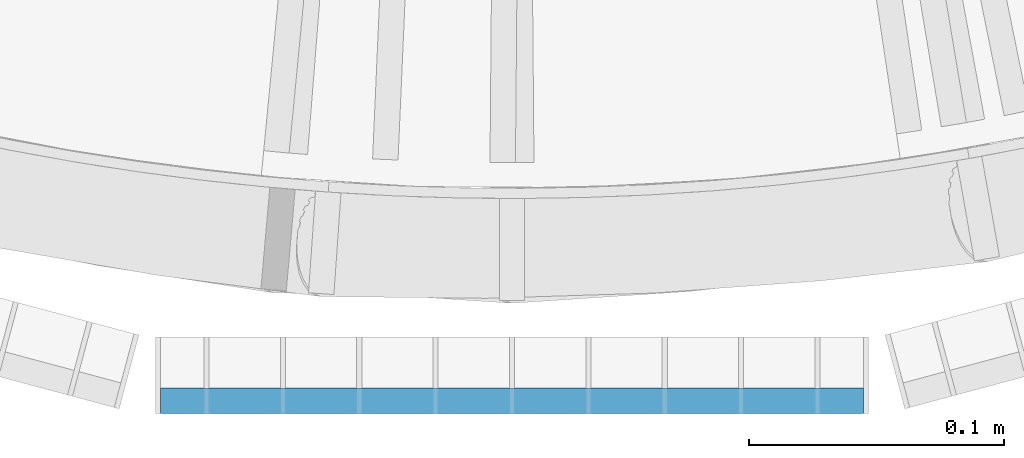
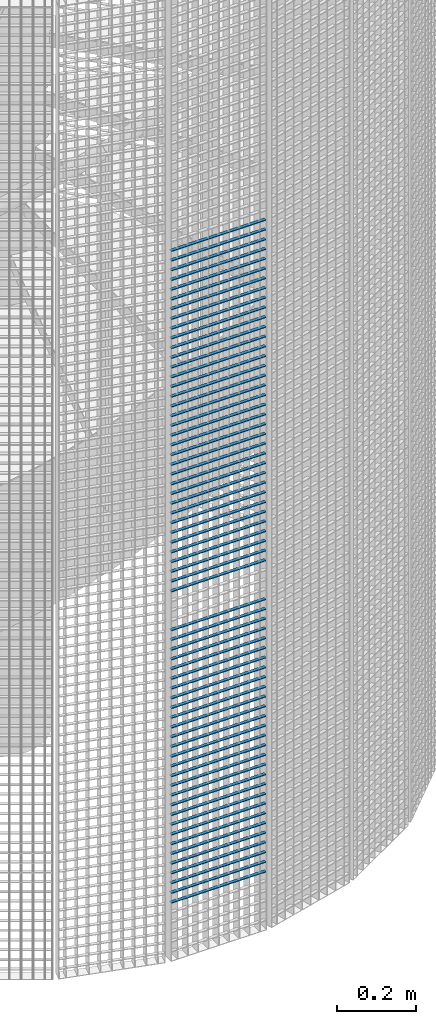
# One storey, part 170 of 1183: 65 beams, 1 element without a shape of its own.
"""IFC2X3 building model written with IfcOpenShell, lengths in millimetres."""

from ifc_helpers import new_model, si_unit, frame, origin_with_axes, origin_2d_with_axis, place, context, subcontext, project, spatial, rectangle, extrude, material, type_object, element, aggregate, save


model = new_model("IFC2X3")

# Units and contexts
model_context = context("Model", 3, precision=1e-05, world=origin_with_axes())
body_context = subcontext(model_context, "Body", "Model", "MODEL_VIEW")
ifc_project = project(units=[si_unit("LENGTHUNIT", "METRE", prefix="MILLI"), si_unit("AREAUNIT", "SQUARE_METRE"), si_unit("VOLUMEUNIT", "CUBIC_METRE"), si_unit("MASSUNIT", "GRAM", prefix="KILO"), si_unit("TIMEUNIT", "SECOND"), si_unit("PLANEANGLEUNIT", "RADIAN"), si_unit("SOLIDANGLEUNIT", "STERADIAN"), si_unit("THERMODYNAMICTEMPERATUREUNIT", "DEGREE_CELSIUS"), si_unit("LUMINOUSINTENSITYUNIT", "LUMEN")], contexts=[model_context])

# Site, building, storey
site_placement = place(None, origin_with_axes())
site = spatial("IfcSite", under=ifc_project, at=site_placement, Name="Undefined", CompositionType="ELEMENT")
building_placement = place(site_placement, origin_with_axes())
building = spatial("IfcBuilding", under=site, at=building_placement, Name="Undefined", CompositionType="ELEMENT")
storey_placement = place(building_placement, origin_with_axes())
storey = spatial("IfcBuildingStorey", under=building, at=storey_placement, Name="Undefined", CompositionType="ELEMENT", Elevation=0.0)

# Assembly, beams
assembly_placement = place(storey_placement, origin_with_axes())
assembly = element("IfcElementAssembly", 1, at=assembly_placement, inside=storey, Name="BORDURE", AssemblyPlace="NOTDEFINED", PredefinedType="NOTDEFINED")
ifc_material = material(Name="STEEL/S235JR")
beam_type = type_object("IfcBeamType", Name="PL2*10", PredefinedType="NOTDEFINED")
beam_1_placement = place(assembly_placement, frame((-137.996003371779, -1113.47999999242, 2190.0), z_axis=(0.0, -1.0, 0.0), x_axis=(1.0, 0.0, 0.0)))
beam_1 = element("IfcBeam", 2, at=beam_1_placement, type_object=beam_type, material=ifc_material, Name="ENTRETOISE", context=body_context, shape_type="SweptSolid", body=[
    extrude(rectangle(XDim=2.0, YDim=10.0, at=origin_2d_with_axis()), frame((275.999999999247, 9.09494701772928e-13, 1.53210777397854e-14), z_axis=(-1.0, 0.0, 0.0), x_axis=(0.0, -1.0, 0.0)), (0.0, 0.0, 1.0), 276.0),
])
beam_2_placement = place(assembly_placement, frame((-137.996003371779, -1113.47999999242, 2160.0), z_axis=(0.0, -1.0, 0.0), x_axis=(1.0, 0.0, 0.0)))
beam_2 = element("IfcBeam", 3, at=beam_2_placement, type_object=beam_type, material=ifc_material, Name="ENTRETOISE", context=body_context, shape_type="SweptSolid", body=[
    extrude(rectangle(XDim=2.0, YDim=10.0, at=origin_2d_with_axis()), frame((275.999999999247, 9.09494701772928e-13, 1.53210777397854e-14), z_axis=(-1.0, 0.0, 0.0), x_axis=(0.0, -1.0, 0.0)), (0.0, 0.0, 1.0), 276.0),
])
beam_3_placement = place(assembly_placement, frame((-137.996003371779, -1113.47999999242, 2130.0), z_axis=(0.0, -1.0, 0.0), x_axis=(1.0, 0.0, 0.0)))
beam_3 = element("IfcBeam", 4, at=beam_3_placement, type_object=beam_type, material=ifc_material, Name="ENTRETOISE", context=body_context, shape_type="SweptSolid", body=[
    extrude(rectangle(XDim=2.0, YDim=10.0, at=origin_2d_with_axis()), frame((275.999999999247, 9.09494701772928e-13, 1.53210777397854e-14), z_axis=(-1.0, 0.0, 0.0), x_axis=(0.0, -1.0, 0.0)), (0.0, 0.0, 1.0), 276.0),
])
beam_4_placement = place(assembly_placement, frame((-137.996003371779, -1113.47999999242, 2100.0), z_axis=(0.0, -1.0, 0.0), x_axis=(1.0, 0.0, 0.0)))
beam_4 = element("IfcBeam", 5, at=beam_4_placement, type_object=beam_type, material=ifc_material, Name="ENTRETOISE", context=body_context, shape_type="SweptSolid", body=[
    extrude(rectangle(XDim=2.0, YDim=10.0, at=origin_2d_with_axis()), frame((275.999999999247, 9.09494701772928e-13, 1.53210777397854e-14), z_axis=(-1.0, 0.0, 0.0), x_axis=(0.0, -1.0, 0.0)), (0.0, 0.0, 1.0), 276.0),
])
beam_5_placement = place(assembly_placement, frame((-137.996003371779, -1113.47999999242, 2070.0), z_axis=(0.0, -1.0, 0.0), x_axis=(1.0, 0.0, 0.0)))
beam_5 = element("IfcBeam", 6, at=beam_5_placement, type_object=beam_type, material=ifc_material, Name="ENTRETOISE", context=body_context, shape_type="SweptSolid", body=[
    extrude(rectangle(XDim=2.0, YDim=10.0, at=origin_2d_with_axis()), frame((275.999999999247, 9.09494701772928e-13, 1.53210777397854e-14), z_axis=(-1.0, 0.0, 0.0), x_axis=(0.0, -1.0, 0.0)), (0.0, 0.0, 1.0), 276.0),
])
beam_6_placement = place(assembly_placement, frame((-137.996003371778, -1113.47999999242, 2040.0), z_axis=(0.0, -1.0, 0.0), x_axis=(1.0, 0.0, 0.0)))
beam_6 = element("IfcBeam", 7, at=beam_6_placement, type_object=beam_type, material=ifc_material, Name="ENTRETOISE", context=body_context, shape_type="SweptSolid", body=[
    extrude(rectangle(XDim=2.0, YDim=10.0, at=origin_2d_with_axis()), frame((275.999999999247, 9.09494701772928e-13, 1.53210777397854e-14), z_axis=(-1.0, 0.0, 0.0), x_axis=(0.0, -1.0, 0.0)), (0.0, 0.0, 1.0), 276.0),
])
beam_7_placement = place(assembly_placement, frame((-137.996003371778, -1113.47999999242, 2010.0), z_axis=(0.0, -1.0, 0.0), x_axis=(1.0, 0.0, 0.0)))
beam_7 = element("IfcBeam", 8, at=beam_7_placement, type_object=beam_type, material=ifc_material, Name="ENTRETOISE", context=body_context, shape_type="SweptSolid", body=[
    extrude(rectangle(XDim=2.0, YDim=10.0, at=origin_2d_with_axis()), frame((275.999999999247, 9.09494701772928e-13, 1.53210777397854e-14), z_axis=(-1.0, 0.0, 0.0), x_axis=(0.0, -1.0, 0.0)), (0.0, 0.0, 1.0), 276.0),
])
beam_8_placement = place(assembly_placement, frame((-137.996003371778, -1113.47999999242, 1980.0), z_axis=(0.0, -1.0, 0.0), x_axis=(1.0, 0.0, 0.0)))
beam_8 = element("IfcBeam", 9, at=beam_8_placement, type_object=beam_type, material=ifc_material, Name="ENTRETOISE", context=body_context, shape_type="SweptSolid", body=[
    extrude(rectangle(XDim=2.0, YDim=10.0, at=origin_2d_with_axis()), frame((275.999999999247, 9.09494701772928e-13, 1.53210777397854e-14), z_axis=(-1.0, 0.0, 0.0), x_axis=(0.0, -1.0, 0.0)), (0.0, 0.0, 1.0), 276.0),
])
beam_9_placement = place(assembly_placement, frame((-137.996003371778, -1113.47999999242, 1950.0), z_axis=(0.0, -1.0, 0.0), x_axis=(1.0, 0.0, 0.0)))
beam_9 = element("IfcBeam", 10, at=beam_9_placement, type_object=beam_type, material=ifc_material, Name="ENTRETOISE", context=body_context, shape_type="SweptSolid", body=[
    extrude(rectangle(XDim=2.0, YDim=10.0, at=origin_2d_with_axis()), frame((275.999999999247, 9.09494701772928e-13, 1.53210777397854e-14), z_axis=(-1.0, 0.0, 0.0), x_axis=(0.0, -1.0, 0.0)), (0.0, 0.0, 1.0), 276.0),
])
beam_10_placement = place(assembly_placement, frame((-137.996003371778, -1113.47999999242, 1920.0), z_axis=(0.0, -1.0, 0.0), x_axis=(1.0, 0.0, 0.0)))
beam_10 = element("IfcBeam", 11, at=beam_10_placement, type_object=beam_type, material=ifc_material, Name="ENTRETOISE", context=body_context, shape_type="SweptSolid", body=[
    extrude(rectangle(XDim=2.0, YDim=10.0, at=origin_2d_with_axis()), frame((275.999999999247, 9.09494701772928e-13, 1.53210777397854e-14), z_axis=(-1.0, 0.0, 0.0), x_axis=(0.0, -1.0, 0.0)), (0.0, 0.0, 1.0), 276.0),
])
beam_11_placement = place(assembly_placement, frame((-137.996003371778, -1113.47999999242, 1890.0), z_axis=(0.0, -1.0, 0.0), x_axis=(1.0, 0.0, 0.0)))
beam_11 = element("IfcBeam", 12, at=beam_11_placement, type_object=beam_type, material=ifc_material, Name="ENTRETOISE", context=body_context, shape_type="SweptSolid", body=[
    extrude(rectangle(XDim=2.0, YDim=10.0, at=origin_2d_with_axis()), frame((275.999999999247, 9.09494701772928e-13, 1.53210777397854e-14), z_axis=(-1.0, 0.0, 0.0), x_axis=(0.0, -1.0, 0.0)), (0.0, 0.0, 1.0), 276.0),
])
beam_12_placement = place(assembly_placement, frame((-137.996003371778, -1113.47999999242, 1860.0), z_axis=(0.0, -1.0, 0.0), x_axis=(1.0, 0.0, 0.0)))
beam_12 = element("IfcBeam", 13, at=beam_12_placement, type_object=beam_type, material=ifc_material, Name="ENTRETOISE", context=body_context, shape_type="SweptSolid", body=[
    extrude(rectangle(XDim=2.0, YDim=10.0, at=origin_2d_with_axis()), frame((275.999999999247, 9.09494701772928e-13, 1.53210777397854e-14), z_axis=(-1.0, 0.0, 0.0), x_axis=(0.0, -1.0, 0.0)), (0.0, 0.0, 1.0), 276.0),
])
beam_13_placement = place(assembly_placement, frame((-137.996003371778, -1113.47999999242, 1830.0), z_axis=(0.0, -1.0, 0.0), x_axis=(1.0, 0.0, 0.0)))
beam_13 = element("IfcBeam", 14, at=beam_13_placement, type_object=beam_type, material=ifc_material, Name="ENTRETOISE", context=body_context, shape_type="SweptSolid", body=[
    extrude(rectangle(XDim=2.0, YDim=10.0, at=origin_2d_with_axis()), frame((275.999999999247, 9.09494701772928e-13, 1.53210777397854e-14), z_axis=(-1.0, 0.0, 0.0), x_axis=(0.0, -1.0, 0.0)), (0.0, 0.0, 1.0), 276.0),
])
beam_14_placement = place(assembly_placement, frame((-137.996003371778, -1113.47999999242, 1800.0), z_axis=(0.0, -1.0, 0.0), x_axis=(1.0, 0.0, 0.0)))
beam_14 = element("IfcBeam", 15, at=beam_14_placement, type_object=beam_type, material=ifc_material, Name="ENTRETOISE", context=body_context, shape_type="SweptSolid", body=[
    extrude(rectangle(XDim=2.0, YDim=10.0, at=origin_2d_with_axis()), frame((275.999999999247, 9.09494701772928e-13, 1.53210777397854e-14), z_axis=(-1.0, 0.0, 0.0), x_axis=(0.0, -1.0, 0.0)), (0.0, 0.0, 1.0), 276.0),
])
beam_15_placement = place(assembly_placement, frame((-137.996003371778, -1113.47999999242, 1770.0), z_axis=(0.0, -1.0, 0.0), x_axis=(1.0, 0.0, 0.0)))
beam_15 = element("IfcBeam", 16, at=beam_15_placement, type_object=beam_type, material=ifc_material, Name="ENTRETOISE", context=body_context, shape_type="SweptSolid", body=[
    extrude(rectangle(XDim=2.0, YDim=10.0, at=origin_2d_with_axis()), frame((275.999999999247, 9.09494701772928e-13, 1.53210777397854e-14), z_axis=(-1.0, 0.0, 0.0), x_axis=(0.0, -1.0, 0.0)), (0.0, 0.0, 1.0), 276.0),
])
beam_16_placement = place(assembly_placement, frame((-137.996003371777, -1113.47999999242, 1740.0), z_axis=(0.0, -1.0, 0.0), x_axis=(1.0, 0.0, 0.0)))
beam_16 = element("IfcBeam", 17, at=beam_16_placement, type_object=beam_type, material=ifc_material, Name="ENTRETOISE", context=body_context, shape_type="SweptSolid", body=[
    extrude(rectangle(XDim=2.0, YDim=10.0, at=origin_2d_with_axis()), frame((275.999999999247, 9.09494701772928e-13, 1.53210777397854e-14), z_axis=(-1.0, 0.0, 0.0), x_axis=(0.0, -1.0, 0.0)), (0.0, 0.0, 1.0), 276.0),
])
beam_17_placement = place(assembly_placement, frame((-137.996003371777, -1113.47999999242, 1710.0), z_axis=(0.0, -1.0, 0.0), x_axis=(1.0, 0.0, 0.0)))
beam_17 = element("IfcBeam", 18, at=beam_17_placement, type_object=beam_type, material=ifc_material, Name="ENTRETOISE", context=body_context, shape_type="SweptSolid", body=[
    extrude(rectangle(XDim=2.0, YDim=10.0, at=origin_2d_with_axis()), frame((275.999999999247, 9.09494701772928e-13, 1.53210777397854e-14), z_axis=(-1.0, 0.0, 0.0), x_axis=(0.0, -1.0, 0.0)), (0.0, 0.0, 1.0), 276.0),
])
beam_18_placement = place(assembly_placement, frame((-137.996003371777, -1113.47999999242, 1680.0), z_axis=(0.0, -1.0, 0.0), x_axis=(1.0, 0.0, 0.0)))
beam_18 = element("IfcBeam", 19, at=beam_18_placement, type_object=beam_type, material=ifc_material, Name="ENTRETOISE", context=body_context, shape_type="SweptSolid", body=[
    extrude(rectangle(XDim=2.0, YDim=10.0, at=origin_2d_with_axis()), frame((275.999999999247, 9.09494701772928e-13, 1.53210777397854e-14), z_axis=(-1.0, 0.0, 0.0), x_axis=(0.0, -1.0, 0.0)), (0.0, 0.0, 1.0), 276.0),
])
beam_19_placement = place(assembly_placement, frame((-137.996003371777, -1113.47999999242, 1650.0), z_axis=(0.0, -1.0, 0.0), x_axis=(1.0, 0.0, 0.0)))
beam_19 = element("IfcBeam", 20, at=beam_19_placement, type_object=beam_type, material=ifc_material, Name="ENTRETOISE", context=body_context, shape_type="SweptSolid", body=[
    extrude(rectangle(XDim=2.0, YDim=10.0, at=origin_2d_with_axis()), frame((275.999999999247, 9.09494701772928e-13, 1.53210777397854e-14), z_axis=(-1.0, 0.0, 0.0), x_axis=(0.0, -1.0, 0.0)), (0.0, 0.0, 1.0), 276.0),
])
beam_20_placement = place(assembly_placement, frame((-137.996003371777, -1113.47999999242, 1620.0), z_axis=(0.0, -1.0, 0.0), x_axis=(1.0, 0.0, 0.0)))
beam_20 = element("IfcBeam", 21, at=beam_20_placement, type_object=beam_type, material=ifc_material, Name="ENTRETOISE", context=body_context, shape_type="SweptSolid", body=[
    extrude(rectangle(XDim=2.0, YDim=10.0, at=origin_2d_with_axis()), frame((275.999999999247, 9.09494701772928e-13, 1.53210777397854e-14), z_axis=(-1.0, 0.0, 0.0), x_axis=(0.0, -1.0, 0.0)), (0.0, 0.0, 1.0), 276.0),
])
beam_21_placement = place(assembly_placement, frame((-137.996003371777, -1113.47999999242, 1590.0), z_axis=(0.0, -1.0, 0.0), x_axis=(1.0, 0.0, 0.0)))
beam_21 = element("IfcBeam", 22, at=beam_21_placement, type_object=beam_type, material=ifc_material, Name="ENTRETOISE", context=body_context, shape_type="SweptSolid", body=[
    extrude(rectangle(XDim=2.0, YDim=10.0, at=origin_2d_with_axis()), frame((275.999999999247, 9.09494701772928e-13, 1.53210777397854e-14), z_axis=(-1.0, 0.0, 0.0), x_axis=(0.0, -1.0, 0.0)), (0.0, 0.0, 1.0), 276.0),
])
beam_22_placement = place(assembly_placement, frame((-137.996003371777, -1113.47999999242, 1560.0), z_axis=(0.0, -1.0, 0.0), x_axis=(1.0, 0.0, 0.0)))
beam_22 = element("IfcBeam", 23, at=beam_22_placement, type_object=beam_type, material=ifc_material, Name="ENTRETOISE", context=body_context, shape_type="SweptSolid", body=[
    extrude(rectangle(XDim=2.0, YDim=10.0, at=origin_2d_with_axis()), frame((275.999999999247, 9.09494701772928e-13, 1.53210777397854e-14), z_axis=(-1.0, 0.0, 0.0), x_axis=(0.0, -1.0, 0.0)), (0.0, 0.0, 1.0), 276.0),
])
beam_23_placement = place(assembly_placement, frame((-137.996003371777, -1113.47999999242, 1530.0), z_axis=(0.0, -1.0, 0.0), x_axis=(1.0, 0.0, 0.0)))
beam_23 = element("IfcBeam", 24, at=beam_23_placement, type_object=beam_type, material=ifc_material, Name="ENTRETOISE", context=body_context, shape_type="SweptSolid", body=[
    extrude(rectangle(XDim=2.0, YDim=10.0, at=origin_2d_with_axis()), frame((275.999999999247, 9.09494701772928e-13, 1.53210777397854e-14), z_axis=(-1.0, 0.0, 0.0), x_axis=(0.0, -1.0, 0.0)), (0.0, 0.0, 1.0), 276.0),
])
beam_24_placement = place(assembly_placement, frame((-137.996003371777, -1113.47999999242, 1500.0), z_axis=(0.0, -1.0, 0.0), x_axis=(1.0, 0.0, 0.0)))
beam_24 = element("IfcBeam", 25, at=beam_24_placement, type_object=beam_type, material=ifc_material, Name="ENTRETOISE", context=body_context, shape_type="SweptSolid", body=[
    extrude(rectangle(XDim=2.0, YDim=10.0, at=origin_2d_with_axis()), frame((275.999999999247, 9.09494701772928e-13, 1.53210777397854e-14), z_axis=(-1.0, 0.0, 0.0), x_axis=(0.0, -1.0, 0.0)), (0.0, 0.0, 1.0), 276.0),
])
beam_25_placement = place(assembly_placement, frame((-137.996003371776, -1113.47999999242, 1470.0), z_axis=(0.0, -1.0, 0.0), x_axis=(1.0, 0.0, 0.0)))
beam_25 = element("IfcBeam", 26, at=beam_25_placement, type_object=beam_type, material=ifc_material, Name="ENTRETOISE", context=body_context, shape_type="SweptSolid", body=[
    extrude(rectangle(XDim=2.0, YDim=10.0, at=origin_2d_with_axis()), frame((275.999999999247, 9.09494701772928e-13, 1.53210777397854e-14), z_axis=(-1.0, 0.0, 0.0), x_axis=(0.0, -1.0, 0.0)), (0.0, 0.0, 1.0), 276.0),
])
beam_26_placement = place(assembly_placement, frame((-137.996003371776, -1113.47999999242, 1440.0), z_axis=(0.0, -1.0, 0.0), x_axis=(1.0, 0.0, 0.0)))
beam_26 = element("IfcBeam", 27, at=beam_26_placement, type_object=beam_type, material=ifc_material, Name="ENTRETOISE", context=body_context, shape_type="SweptSolid", body=[
    extrude(rectangle(XDim=2.0, YDim=10.0, at=origin_2d_with_axis()), frame((275.999999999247, 9.09494701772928e-13, 1.53210777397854e-14), z_axis=(-1.0, 0.0, 0.0), x_axis=(0.0, -1.0, 0.0)), (0.0, 0.0, 1.0), 276.0),
])
beam_27_placement = place(assembly_placement, frame((-137.996003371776, -1113.47999999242, 1410.0), z_axis=(0.0, -1.0, 0.0), x_axis=(1.0, 0.0, 0.0)))
beam_27 = element("IfcBeam", 28, at=beam_27_placement, type_object=beam_type, material=ifc_material, Name="ENTRETOISE", context=body_context, shape_type="SweptSolid", body=[
    extrude(rectangle(XDim=2.0, YDim=10.0, at=origin_2d_with_axis()), frame((275.999999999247, 9.09494701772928e-13, 1.53210777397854e-14), z_axis=(-1.0, 0.0, 0.0), x_axis=(0.0, -1.0, 0.0)), (0.0, 0.0, 1.0), 276.0),
])
beam_28_placement = place(assembly_placement, frame((-137.996003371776, -1113.47999999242, 1380.0), z_axis=(0.0, -1.0, 0.0), x_axis=(1.0, 0.0, 0.0)))
beam_28 = element("IfcBeam", 29, at=beam_28_placement, type_object=beam_type, material=ifc_material, Name="ENTRETOISE", context=body_context, shape_type="SweptSolid", body=[
    extrude(rectangle(XDim=2.0, YDim=10.0, at=origin_2d_with_axis()), frame((275.999999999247, 9.09494701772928e-13, 1.53210777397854e-14), z_axis=(-1.0, 0.0, 0.0), x_axis=(0.0, -1.0, 0.0)), (0.0, 0.0, 1.0), 276.0),
])
beam_29_placement = place(assembly_placement, frame((-137.996003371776, -1113.47999999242, 1350.0), z_axis=(0.0, -1.0, 0.0), x_axis=(1.0, 0.0, 0.0)))
beam_29 = element("IfcBeam", 30, at=beam_29_placement, type_object=beam_type, material=ifc_material, Name="ENTRETOISE", context=body_context, shape_type="SweptSolid", body=[
    extrude(rectangle(XDim=2.0, YDim=10.0, at=origin_2d_with_axis()), frame((275.999999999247, 9.09494701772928e-13, 1.53210777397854e-14), z_axis=(-1.0, 0.0, 0.0), x_axis=(0.0, -1.0, 0.0)), (0.0, 0.0, 1.0), 276.0),
])
beam_30_placement = place(assembly_placement, frame((-137.996003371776, -1113.47999999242, 1320.0), z_axis=(0.0, -1.0, 0.0), x_axis=(1.0, 0.0, 0.0)))
beam_30 = element("IfcBeam", 31, at=beam_30_placement, type_object=beam_type, material=ifc_material, Name="ENTRETOISE", context=body_context, shape_type="SweptSolid", body=[
    extrude(rectangle(XDim=2.0, YDim=10.0, at=origin_2d_with_axis()), frame((275.999999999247, 9.09494701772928e-13, 1.53210777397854e-14), z_axis=(-1.0, 0.0, 0.0), x_axis=(0.0, -1.0, 0.0)), (0.0, 0.0, 1.0), 276.0),
])
beam_31_placement = place(assembly_placement, frame((-137.996003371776, -1113.47999999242, 1290.0), z_axis=(0.0, -1.0, 0.0), x_axis=(1.0, 0.0, 0.0)))
beam_31 = element("IfcBeam", 32, at=beam_31_placement, type_object=beam_type, material=ifc_material, Name="ENTRETOISE", context=body_context, shape_type="SweptSolid", body=[
    extrude(rectangle(XDim=2.0, YDim=10.0, at=origin_2d_with_axis()), frame((275.999999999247, 9.09494701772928e-13, 1.53210777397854e-14), z_axis=(-1.0, 0.0, 0.0), x_axis=(0.0, -1.0, 0.0)), (0.0, 0.0, 1.0), 276.0),
])
beam_32_placement = place(assembly_placement, frame((-137.996003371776, -1113.47999999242, 1260.0), z_axis=(0.0, -1.0, 0.0), x_axis=(1.0, 0.0, 0.0)))
beam_32 = element("IfcBeam", 33, at=beam_32_placement, type_object=beam_type, material=ifc_material, Name="ENTRETOISE", context=body_context, shape_type="SweptSolid", body=[
    extrude(rectangle(XDim=2.0, YDim=10.0, at=origin_2d_with_axis()), frame((275.999999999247, 9.09494701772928e-13, 1.53210777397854e-14), z_axis=(-1.0, 0.0, 0.0), x_axis=(0.0, -1.0, 0.0)), (0.0, 0.0, 1.0), 276.0),
])
beam_33_placement = place(assembly_placement, frame((-137.996003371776, -1113.47999999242, 1230.0), z_axis=(0.0, -1.0, 0.0), x_axis=(1.0, 0.0, 0.0)))
beam_33 = element("IfcBeam", 34, at=beam_33_placement, type_object=beam_type, material=ifc_material, Name="ENTRETOISE", context=body_context, shape_type="SweptSolid", body=[
    extrude(rectangle(XDim=2.0, YDim=10.0, at=origin_2d_with_axis()), frame((275.999999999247, 9.09494701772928e-13, 1.53210777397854e-14), z_axis=(-1.0, 0.0, 0.0), x_axis=(0.0, -1.0, 0.0)), (0.0, 0.0, 1.0), 276.0),
])
beam_34_placement = place(assembly_placement, frame((-137.996003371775, -1113.47999999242, 1200.0), z_axis=(0.0, -1.0, 0.0), x_axis=(1.0, 0.0, 0.0)))
beam_34 = element("IfcBeam", 35, at=beam_34_placement, type_object=beam_type, material=ifc_material, Name="ENTRETOISE", context=body_context, shape_type="SweptSolid", body=[
    extrude(rectangle(XDim=2.0, YDim=10.0, at=origin_2d_with_axis()), frame((275.999999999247, 9.09494701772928e-13, 1.53210777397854e-14), z_axis=(-1.0, 0.0, 0.0), x_axis=(0.0, -1.0, 0.0)), (0.0, 0.0, 1.0), 276.0),
])
beam_35_placement = place(assembly_placement, frame((-137.996003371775, -1113.47999999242, 1170.0), z_axis=(0.0, -1.0, 0.0), x_axis=(1.0, 0.0, 0.0)))
beam_35 = element("IfcBeam", 36, at=beam_35_placement, type_object=beam_type, material=ifc_material, Name="ENTRETOISE", context=body_context, shape_type="SweptSolid", body=[
    extrude(rectangle(XDim=2.0, YDim=10.0, at=origin_2d_with_axis()), frame((275.999999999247, 9.09494701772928e-13, 1.53210777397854e-14), z_axis=(-1.0, 0.0, 0.0), x_axis=(0.0, -1.0, 0.0)), (0.0, 0.0, 1.0), 276.0),
])
beam_36_placement = place(assembly_placement, frame((-137.996003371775, -1113.47999999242, 1140.0), z_axis=(0.0, -1.0, 0.0), x_axis=(1.0, 0.0, 0.0)))
beam_36 = element("IfcBeam", 37, at=beam_36_placement, type_object=beam_type, material=ifc_material, Name="ENTRETOISE", context=body_context, shape_type="SweptSolid", body=[
    extrude(rectangle(XDim=2.0, YDim=10.0, at=origin_2d_with_axis()), frame((275.999999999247, 9.09494701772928e-13, 1.53210777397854e-14), z_axis=(-1.0, 0.0, 0.0), x_axis=(0.0, -1.0, 0.0)), (0.0, 0.0, 1.0), 276.0),
])
beam_37_placement = place(assembly_placement, frame((-137.996003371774, -1113.47999999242, 719.999999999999), z_axis=(0.0, -1.0, 0.0), x_axis=(1.0, 0.0, 0.0)))
beam_37 = element("IfcBeam", 38, at=beam_37_placement, type_object=beam_type, material=ifc_material, Name="ENTRETOISE", context=body_context, shape_type="SweptSolid", body=[
    extrude(rectangle(XDim=2.0, YDim=10.0, at=origin_2d_with_axis()), frame((275.999999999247, 9.09494701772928e-13, 1.53210777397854e-14), z_axis=(-1.0, 0.0, 0.0), x_axis=(0.0, -1.0, 0.0)), (0.0, 0.0, 1.0), 276.0),
])
beam_38_placement = place(assembly_placement, frame((-137.996003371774, -1113.47999999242, 689.999999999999), z_axis=(0.0, -1.0, 0.0), x_axis=(1.0, 0.0, 0.0)))
beam_38 = element("IfcBeam", 39, at=beam_38_placement, type_object=beam_type, material=ifc_material, Name="ENTRETOISE", context=body_context, shape_type="SweptSolid", body=[
    extrude(rectangle(XDim=2.0, YDim=10.0, at=origin_2d_with_axis()), frame((275.999999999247, 9.09494701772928e-13, 1.53210777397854e-14), z_axis=(-1.0, 0.0, 0.0), x_axis=(0.0, -1.0, 0.0)), (0.0, 0.0, 1.0), 276.0),
])
beam_39_placement = place(assembly_placement, frame((-137.996003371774, -1113.47999999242, 749.999999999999), z_axis=(0.0, -1.0, 0.0), x_axis=(1.0, 0.0, 0.0)))
beam_39 = element("IfcBeam", 40, at=beam_39_placement, type_object=beam_type, material=ifc_material, Name="ENTRETOISE", context=body_context, shape_type="SweptSolid", body=[
    extrude(rectangle(XDim=2.0, YDim=10.0, at=origin_2d_with_axis()), frame((275.999999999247, 9.09494701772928e-13, 1.53210777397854e-14), z_axis=(-1.0, 0.0, 0.0), x_axis=(0.0, -1.0, 0.0)), (0.0, 0.0, 1.0), 276.0),
])
beam_40_placement = place(assembly_placement, frame((-137.996003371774, -1113.47999999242, 659.999999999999), z_axis=(0.0, -1.0, 0.0), x_axis=(1.0, 0.0, 0.0)))
beam_40 = element("IfcBeam", 41, at=beam_40_placement, type_object=beam_type, material=ifc_material, Name="ENTRETOISE", context=body_context, shape_type="SweptSolid", body=[
    extrude(rectangle(XDim=2.0, YDim=10.0, at=origin_2d_with_axis()), frame((275.999999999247, 9.09494701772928e-13, 1.53210777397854e-14), z_axis=(-1.0, 0.0, 0.0), x_axis=(0.0, -1.0, 0.0)), (0.0, 0.0, 1.0), 276.0),
])
beam_41_placement = place(assembly_placement, frame((-137.996003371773, -1113.47999999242, 629.999999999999), z_axis=(0.0, -1.0, 0.0), x_axis=(1.0, 0.0, 0.0)))
beam_41 = element("IfcBeam", 42, at=beam_41_placement, type_object=beam_type, material=ifc_material, Name="ENTRETOISE", context=body_context, shape_type="SweptSolid", body=[
    extrude(rectangle(XDim=2.0, YDim=10.0, at=origin_2d_with_axis()), frame((275.999999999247, 9.09494701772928e-13, 1.53210777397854e-14), z_axis=(-1.0, 0.0, 0.0), x_axis=(0.0, -1.0, 0.0)), (0.0, 0.0, 1.0), 276.0),
])
beam_42_placement = place(assembly_placement, frame((-137.996003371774, -1113.47999999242, 779.999999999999), z_axis=(0.0, -1.0, 0.0), x_axis=(1.0, 0.0, 0.0)))
beam_42 = element("IfcBeam", 43, at=beam_42_placement, type_object=beam_type, material=ifc_material, Name="ENTRETOISE", context=body_context, shape_type="SweptSolid", body=[
    extrude(rectangle(XDim=2.0, YDim=10.0, at=origin_2d_with_axis()), frame((275.999999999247, 9.09494701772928e-13, 1.53210777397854e-14), z_axis=(-1.0, 0.0, 0.0), x_axis=(0.0, -1.0, 0.0)), (0.0, 0.0, 1.0), 276.0),
])
beam_43_placement = place(assembly_placement, frame((-137.996003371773, -1113.47999999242, 599.999999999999), z_axis=(0.0, -1.0, 0.0), x_axis=(1.0, 0.0, 0.0)))
beam_43 = element("IfcBeam", 44, at=beam_43_placement, type_object=beam_type, material=ifc_material, Name="ENTRETOISE", context=body_context, shape_type="SweptSolid", body=[
    extrude(rectangle(XDim=2.0, YDim=10.0, at=origin_2d_with_axis()), frame((275.999999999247, 9.09494701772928e-13, 1.53210777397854e-14), z_axis=(-1.0, 0.0, 0.0), x_axis=(0.0, -1.0, 0.0)), (0.0, 0.0, 1.0), 276.0),
])
beam_44_placement = place(assembly_placement, frame((-137.996003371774, -1113.47999999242, 809.999999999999), z_axis=(0.0, -1.0, 0.0), x_axis=(1.0, 0.0, 0.0)))
beam_44 = element("IfcBeam", 45, at=beam_44_placement, type_object=beam_type, material=ifc_material, Name="ENTRETOISE", context=body_context, shape_type="SweptSolid", body=[
    extrude(rectangle(XDim=2.0, YDim=10.0, at=origin_2d_with_axis()), frame((275.999999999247, 9.09494701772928e-13, 1.53210777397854e-14), z_axis=(-1.0, 0.0, 0.0), x_axis=(0.0, -1.0, 0.0)), (0.0, 0.0, 1.0), 276.0),
])
beam_45_placement = place(assembly_placement, frame((-137.996003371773, -1113.47999999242, 569.999999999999), z_axis=(0.0, -1.0, 0.0), x_axis=(1.0, 0.0, 0.0)))
beam_45 = element("IfcBeam", 46, at=beam_45_placement, type_object=beam_type, material=ifc_material, Name="ENTRETOISE", context=body_context, shape_type="SweptSolid", body=[
    extrude(rectangle(XDim=2.0, YDim=10.0, at=origin_2d_with_axis()), frame((275.999999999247, 9.09494701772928e-13, 1.53210777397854e-14), z_axis=(-1.0, 0.0, 0.0), x_axis=(0.0, -1.0, 0.0)), (0.0, 0.0, 1.0), 276.0),
])
beam_46_placement = place(assembly_placement, frame((-137.996003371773, -1113.47999999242, 539.999999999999), z_axis=(0.0, -1.0, 0.0), x_axis=(1.0, 0.0, 0.0)))
beam_46 = element("IfcBeam", 47, at=beam_46_placement, type_object=beam_type, material=ifc_material, Name="ENTRETOISE", context=body_context, shape_type="SweptSolid", body=[
    extrude(rectangle(XDim=2.0, YDim=10.0, at=origin_2d_with_axis()), frame((275.999999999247, 9.09494701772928e-13, 1.53210777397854e-14), z_axis=(-1.0, 0.0, 0.0), x_axis=(0.0, -1.0, 0.0)), (0.0, 0.0, 1.0), 276.0),
])
beam_47_placement = place(assembly_placement, frame((-137.996003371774, -1113.47999999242, 839.999999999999), z_axis=(0.0, -1.0, 0.0), x_axis=(1.0, 0.0, 0.0)))
beam_47 = element("IfcBeam", 48, at=beam_47_placement, type_object=beam_type, material=ifc_material, Name="ENTRETOISE", context=body_context, shape_type="SweptSolid", body=[
    extrude(rectangle(XDim=2.0, YDim=10.0, at=origin_2d_with_axis()), frame((275.999999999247, 9.09494701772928e-13, 1.53210777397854e-14), z_axis=(-1.0, 0.0, 0.0), x_axis=(0.0, -1.0, 0.0)), (0.0, 0.0, 1.0), 276.0),
])
beam_48_placement = place(assembly_placement, frame((-137.996003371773, -1113.47999999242, 509.999999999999), z_axis=(0.0, -1.0, 0.0), x_axis=(1.0, 0.0, 0.0)))
beam_48 = element("IfcBeam", 49, at=beam_48_placement, type_object=beam_type, material=ifc_material, Name="ENTRETOISE", context=body_context, shape_type="SweptSolid", body=[
    extrude(rectangle(XDim=2.0, YDim=10.0, at=origin_2d_with_axis()), frame((275.999999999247, 9.09494701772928e-13, 1.53210777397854e-14), z_axis=(-1.0, 0.0, 0.0), x_axis=(0.0, -1.0, 0.0)), (0.0, 0.0, 1.0), 276.0),
])
beam_49_placement = place(assembly_placement, frame((-137.996003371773, -1113.47999999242, 479.999999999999), z_axis=(0.0, -1.0, 0.0), x_axis=(1.0, 0.0, 0.0)))
beam_49 = element("IfcBeam", 50, at=beam_49_placement, type_object=beam_type, material=ifc_material, Name="ENTRETOISE", context=body_context, shape_type="SweptSolid", body=[
    extrude(rectangle(XDim=2.0, YDim=10.0, at=origin_2d_with_axis()), frame((275.999999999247, 9.09494701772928e-13, 1.53210777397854e-14), z_axis=(-1.0, 0.0, 0.0), x_axis=(0.0, -1.0, 0.0)), (0.0, 0.0, 1.0), 276.0),
])
beam_50_placement = place(assembly_placement, frame((-137.996003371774, -1113.47999999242, 869.999999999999), z_axis=(0.0, -1.0, 0.0), x_axis=(1.0, 0.0, 0.0)))
beam_50 = element("IfcBeam", 51, at=beam_50_placement, type_object=beam_type, material=ifc_material, Name="ENTRETOISE", context=body_context, shape_type="SweptSolid", body=[
    extrude(rectangle(XDim=2.0, YDim=10.0, at=origin_2d_with_axis()), frame((275.999999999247, 9.09494701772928e-13, 1.53210777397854e-14), z_axis=(-1.0, 0.0, 0.0), x_axis=(0.0, -1.0, 0.0)), (0.0, 0.0, 1.0), 276.0),
])
beam_51_placement = place(assembly_placement, frame((-137.996003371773, -1113.47999999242, 449.999999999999), z_axis=(0.0, -1.0, 0.0), x_axis=(1.0, 0.0, 0.0)))
beam_51 = element("IfcBeam", 52, at=beam_51_placement, type_object=beam_type, material=ifc_material, Name="ENTRETOISE", context=body_context, shape_type="SweptSolid", body=[
    extrude(rectangle(XDim=2.0, YDim=10.0, at=origin_2d_with_axis()), frame((275.999999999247, 9.09494701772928e-13, 1.53210777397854e-14), z_axis=(-1.0, 0.0, 0.0), x_axis=(0.0, -1.0, 0.0)), (0.0, 0.0, 1.0), 276.0),
])
beam_52_placement = place(assembly_placement, frame((-137.996003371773, -1113.47999999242, 419.999999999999), z_axis=(0.0, -1.0, 0.0), x_axis=(1.0, 0.0, 0.0)))
beam_52 = element("IfcBeam", 53, at=beam_52_placement, type_object=beam_type, material=ifc_material, Name="ENTRETOISE", context=body_context, shape_type="SweptSolid", body=[
    extrude(rectangle(XDim=2.0, YDim=10.0, at=origin_2d_with_axis()), frame((275.999999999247, 9.09494701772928e-13, 1.53210777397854e-14), z_axis=(-1.0, 0.0, 0.0), x_axis=(0.0, -1.0, 0.0)), (0.0, 0.0, 1.0), 276.0),
])
beam_53_placement = place(assembly_placement, frame((-137.996003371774, -1113.47999999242, 899.999999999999), z_axis=(0.0, -1.0, 0.0), x_axis=(1.0, 0.0, 0.0)))
beam_53 = element("IfcBeam", 54, at=beam_53_placement, type_object=beam_type, material=ifc_material, Name="ENTRETOISE", context=body_context, shape_type="SweptSolid", body=[
    extrude(rectangle(XDim=2.0, YDim=10.0, at=origin_2d_with_axis()), frame((275.999999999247, 9.09494701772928e-13, 1.53210777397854e-14), z_axis=(-1.0, 0.0, 0.0), x_axis=(0.0, -1.0, 0.0)), (0.0, 0.0, 1.0), 276.0),
])
beam_54_placement = place(assembly_placement, frame((-137.996003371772, -1113.47999999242, 389.999999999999), z_axis=(0.0, -1.0, 0.0), x_axis=(1.0, 0.0, 0.0)))
beam_54 = element("IfcBeam", 55, at=beam_54_placement, type_object=beam_type, material=ifc_material, Name="ENTRETOISE", context=body_context, shape_type="SweptSolid", body=[
    extrude(rectangle(XDim=2.0, YDim=10.0, at=origin_2d_with_axis()), frame((275.999999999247, 9.09494701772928e-13, 1.53210777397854e-14), z_axis=(-1.0, 0.0, 0.0), x_axis=(0.0, -1.0, 0.0)), (0.0, 0.0, 1.0), 276.0),
])
beam_55_placement = place(assembly_placement, frame((-137.996003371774, -1113.47999999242, 929.999999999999), z_axis=(0.0, -1.0, 0.0), x_axis=(1.0, 0.0, 0.0)))
beam_55 = element("IfcBeam", 56, at=beam_55_placement, type_object=beam_type, material=ifc_material, Name="ENTRETOISE", context=body_context, shape_type="SweptSolid", body=[
    extrude(rectangle(XDim=2.0, YDim=10.0, at=origin_2d_with_axis()), frame((275.999999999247, 9.09494701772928e-13, 1.53210777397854e-14), z_axis=(-1.0, 0.0, 0.0), x_axis=(0.0, -1.0, 0.0)), (0.0, 0.0, 1.0), 276.0),
])
beam_56_placement = place(assembly_placement, frame((-137.996003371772, -1113.47999999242, 359.999999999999), z_axis=(0.0, -1.0, 0.0), x_axis=(1.0, 0.0, 0.0)))
beam_56 = element("IfcBeam", 57, at=beam_56_placement, type_object=beam_type, material=ifc_material, Name="ENTRETOISE", context=body_context, shape_type="SweptSolid", body=[
    extrude(rectangle(XDim=2.0, YDim=10.0, at=origin_2d_with_axis()), frame((275.999999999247, 9.09494701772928e-13, 1.53210777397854e-14), z_axis=(-1.0, 0.0, 0.0), x_axis=(0.0, -1.0, 0.0)), (0.0, 0.0, 1.0), 276.0),
])
beam_57_placement = place(assembly_placement, frame((-137.996003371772, -1113.47999999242, 329.999999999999), z_axis=(0.0, -1.0, 0.0), x_axis=(1.0, 0.0, 0.0)))
beam_57 = element("IfcBeam", 58, at=beam_57_placement, type_object=beam_type, material=ifc_material, Name="ENTRETOISE", context=body_context, shape_type="SweptSolid", body=[
    extrude(rectangle(XDim=2.0, YDim=10.0, at=origin_2d_with_axis()), frame((275.999999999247, 9.09494701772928e-13, 1.53210777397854e-14), z_axis=(-1.0, 0.0, 0.0), x_axis=(0.0, -1.0, 0.0)), (0.0, 0.0, 1.0), 276.0),
])
beam_58_placement = place(assembly_placement, frame((-137.996003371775, -1113.47999999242, 959.999999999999), z_axis=(0.0, -1.0, 0.0), x_axis=(1.0, 0.0, 0.0)))
beam_58 = element("IfcBeam", 59, at=beam_58_placement, type_object=beam_type, material=ifc_material, Name="ENTRETOISE", context=body_context, shape_type="SweptSolid", body=[
    extrude(rectangle(XDim=2.0, YDim=10.0, at=origin_2d_with_axis()), frame((275.999999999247, 9.09494701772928e-13, 1.53210777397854e-14), z_axis=(-1.0, 0.0, 0.0), x_axis=(0.0, -1.0, 0.0)), (0.0, 0.0, 1.0), 276.0),
])
beam_59_placement = place(assembly_placement, frame((-137.996003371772, -1113.47999999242, 299.999999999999), z_axis=(0.0, -1.0, 0.0), x_axis=(1.0, 0.0, 0.0)))
beam_59 = element("IfcBeam", 60, at=beam_59_placement, type_object=beam_type, material=ifc_material, Name="ENTRETOISE", context=body_context, shape_type="SweptSolid", body=[
    extrude(rectangle(XDim=2.0, YDim=10.0, at=origin_2d_with_axis()), frame((275.999999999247, 9.09494701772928e-13, 1.53210777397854e-14), z_axis=(-1.0, 0.0, 0.0), x_axis=(0.0, -1.0, 0.0)), (0.0, 0.0, 1.0), 276.0),
])
beam_60_placement = place(assembly_placement, frame((-137.996003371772, -1113.47999999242, 269.999999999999), z_axis=(0.0, -1.0, 0.0), x_axis=(1.0, 0.0, 0.0)))
beam_60 = element("IfcBeam", 61, at=beam_60_placement, type_object=beam_type, material=ifc_material, Name="ENTRETOISE", context=body_context, shape_type="SweptSolid", body=[
    extrude(rectangle(XDim=2.0, YDim=10.0, at=origin_2d_with_axis()), frame((275.999999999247, 9.09494701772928e-13, 1.53210777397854e-14), z_axis=(-1.0, 0.0, 0.0), x_axis=(0.0, -1.0, 0.0)), (0.0, 0.0, 1.0), 276.0),
])
beam_61_placement = place(assembly_placement, frame((-137.996003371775, -1113.47999999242, 989.999999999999), z_axis=(0.0, -1.0, 0.0), x_axis=(1.0, 0.0, 0.0)))
beam_61 = element("IfcBeam", 62, at=beam_61_placement, type_object=beam_type, material=ifc_material, Name="ENTRETOISE", context=body_context, shape_type="SweptSolid", body=[
    extrude(rectangle(XDim=2.0, YDim=10.0, at=origin_2d_with_axis()), frame((275.999999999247, 9.09494701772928e-13, 1.53210777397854e-14), z_axis=(-1.0, 0.0, 0.0), x_axis=(0.0, -1.0, 0.0)), (0.0, 0.0, 1.0), 276.0),
])
beam_62_placement = place(assembly_placement, frame((-137.996003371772, -1113.47999999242, 239.999999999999), z_axis=(0.0, -1.0, 0.0), x_axis=(1.0, 0.0, 0.0)))
beam_62 = element("IfcBeam", 63, at=beam_62_placement, type_object=beam_type, material=ifc_material, Name="ENTRETOISE", context=body_context, shape_type="SweptSolid", body=[
    extrude(rectangle(XDim=2.0, YDim=10.0, at=origin_2d_with_axis()), frame((275.999999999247, 9.09494701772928e-13, 1.53210777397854e-14), z_axis=(-1.0, 0.0, 0.0), x_axis=(0.0, -1.0, 0.0)), (0.0, 0.0, 1.0), 276.0),
])
beam_63_placement = place(assembly_placement, frame((-137.996003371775, -1113.47999999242, 1020.0), z_axis=(0.0, -1.0, 0.0), x_axis=(1.0, 0.0, 0.0)))
beam_63 = element("IfcBeam", 64, at=beam_63_placement, type_object=beam_type, material=ifc_material, Name="ENTRETOISE", context=body_context, shape_type="SweptSolid", body=[
    extrude(rectangle(XDim=2.0, YDim=10.0, at=origin_2d_with_axis()), frame((275.999999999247, 9.09494701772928e-13, 1.53210777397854e-14), z_axis=(-1.0, 0.0, 0.0), x_axis=(0.0, -1.0, 0.0)), (0.0, 0.0, 1.0), 276.0),
])
beam_64_placement = place(assembly_placement, frame((-137.996003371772, -1113.47999999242, 209.999999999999), z_axis=(0.0, -1.0, 0.0), x_axis=(1.0, 0.0, 0.0)))
beam_64 = element("IfcBeam", 65, at=beam_64_placement, type_object=beam_type, material=ifc_material, Name="ENTRETOISE", context=body_context, shape_type="SweptSolid", body=[
    extrude(rectangle(XDim=2.0, YDim=10.0, at=origin_2d_with_axis()), frame((275.999999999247, 9.09494701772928e-13, 1.53210777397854e-14), z_axis=(-1.0, 0.0, 0.0), x_axis=(0.0, -1.0, 0.0)), (0.0, 0.0, 1.0), 276.0),
])
beam_65_placement = place(assembly_placement, frame((-137.996003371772, -1113.47999999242, 179.999999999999), z_axis=(0.0, -1.0, 0.0), x_axis=(1.0, 0.0, 0.0)))
beam_65 = element("IfcBeam", 66, at=beam_65_placement, type_object=beam_type, material=ifc_material, Name="ENTRETOISE", context=body_context, shape_type="SweptSolid", body=[
    extrude(rectangle(XDim=2.0, YDim=10.0, at=origin_2d_with_axis()), frame((275.999999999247, 9.09494701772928e-13, 1.53210777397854e-14), z_axis=(-1.0, 0.0, 0.0), x_axis=(0.0, -1.0, 0.0)), (0.0, 0.0, 1.0), 276.0),
])
aggregate(assembly, [beam_1, beam_2, beam_3, beam_4, beam_5, beam_6, beam_7, beam_8, beam_9, beam_10, beam_11, beam_12, beam_13, beam_14, beam_15, beam_16, beam_17, beam_18, beam_19, beam_20, beam_21, beam_22, beam_23, beam_24, beam_25, beam_26, beam_27, beam_28, beam_29, beam_30, beam_31, beam_32, beam_33, beam_34, beam_35, beam_36, beam_37, beam_38, beam_39, beam_40, beam_41, beam_42, beam_43, beam_44, beam_45, beam_46, beam_47, beam_48, beam_49, beam_50, beam_51, beam_52, beam_53, beam_54, beam_55, beam_56, beam_57, beam_58, beam_59, beam_60, beam_61, beam_62, beam_63, beam_64, beam_65])

save(model, "model.ifc")
